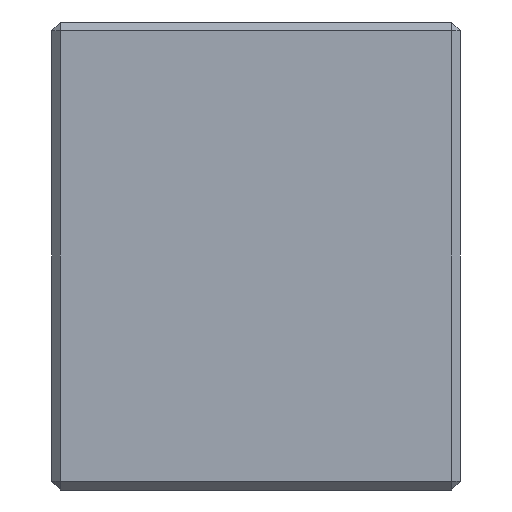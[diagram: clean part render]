
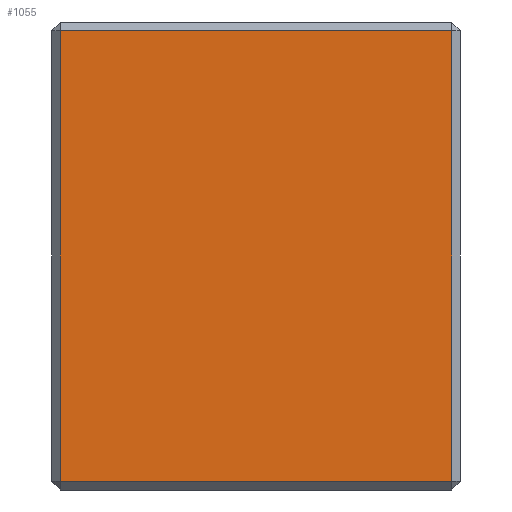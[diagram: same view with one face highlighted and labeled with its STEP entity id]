
A CAD part, left-side view. The second image highlights one B-rep face of the part: STEP entity #1055.
In plain terms, the highlighted planar face has unit normal (-1, 0, 0).
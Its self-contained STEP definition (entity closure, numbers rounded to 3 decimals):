
#18 = CARTESIAN_POINT ( 'NONE',  ( -37.5, 24., -26.5 ) ) ;
#28 = DIRECTION ( 'NONE',  ( 1., 0., 0. ) ) ;
#100 = AXIS2_PLACEMENT_3D ( 'NONE', #170, #28, #1035 ) ;
#116 = VECTOR ( 'NONE', #1185, 1000. ) ;
#129 = VECTOR ( 'NONE', #1319, 1000. ) ;
#132 = CARTESIAN_POINT ( 'NONE',  ( -37.5, -23., 26.5 ) ) ;
#170 = CARTESIAN_POINT ( 'NONE',  ( -37.5, 24., 27.5 ) ) ;
#177 = CARTESIAN_POINT ( 'NONE',  ( -37.5, 23., 27.5 ) ) ;
#224 = FACE_OUTER_BOUND ( 'NONE', #1686, .T. ) ;
#227 = ORIENTED_EDGE ( 'NONE', *, *, #913, .T. ) ;
#233 = EDGE_CURVE ( 'NONE', #1784, #1822, #1607, .T. ) ;
#301 = ORIENTED_EDGE ( 'NONE', *, *, #233, .T. ) ;
#473 = CARTESIAN_POINT ( 'NONE',  ( -37.5, 24., 26.5 ) ) ;
#760 = EDGE_CURVE ( 'NONE', #1582, #1398, #881, .T. ) ;
#870 = ORIENTED_EDGE ( 'NONE', *, *, #760, .T. ) ;
#880 = VECTOR ( 'NONE', #1045, 1000. ) ;
#881 = LINE ( 'NONE', #18, #116 ) ;
#893 = LINE ( 'NONE', #1470, #129 ) ;
#913 = EDGE_CURVE ( 'NONE', #1822, #1582, #1578, .T. ) ;
#1035 = DIRECTION ( 'NONE',  ( 0., 1., 0. ) ) ;
#1045 = DIRECTION ( 'NONE',  ( 0., 0., -1. ) ) ;
#1055 = ADVANCED_FACE ( 'NONE', ( #224 ), #1333, .F. ) ;
#1173 = VECTOR ( 'NONE', #1508, 1000. ) ;
#1185 = DIRECTION ( 'NONE',  ( 0., -1., 0. ) ) ;
#1202 = CARTESIAN_POINT ( 'NONE',  ( -37.5, -23., -26.5 ) ) ;
#1235 = ORIENTED_EDGE ( 'NONE', *, *, #1349, .T. ) ;
#1312 = CARTESIAN_POINT ( 'NONE',  ( -37.5, 23., 26.5 ) ) ;
#1319 = DIRECTION ( 'NONE',  ( 0., 0., 1. ) ) ;
#1333 = PLANE ( 'NONE',  #100 ) ;
#1349 = EDGE_CURVE ( 'NONE', #1398, #1784, #893, .T. ) ;
#1398 = VERTEX_POINT ( 'NONE', #1202 ) ;
#1470 = CARTESIAN_POINT ( 'NONE',  ( -37.5, -23., 27.5 ) ) ;
#1508 = DIRECTION ( 'NONE',  ( 0., 1., 0. ) ) ;
#1578 = LINE ( 'NONE', #177, #880 ) ;
#1582 = VERTEX_POINT ( 'NONE', #1689 ) ;
#1607 = LINE ( 'NONE', #473, #1173 ) ;
#1686 = EDGE_LOOP ( 'NONE', ( #870, #1235, #301, #227 ) ) ;
#1689 = CARTESIAN_POINT ( 'NONE',  ( -37.5, 23., -26.5 ) ) ;
#1784 = VERTEX_POINT ( 'NONE', #132 ) ;
#1822 = VERTEX_POINT ( 'NONE', #1312 ) ;
